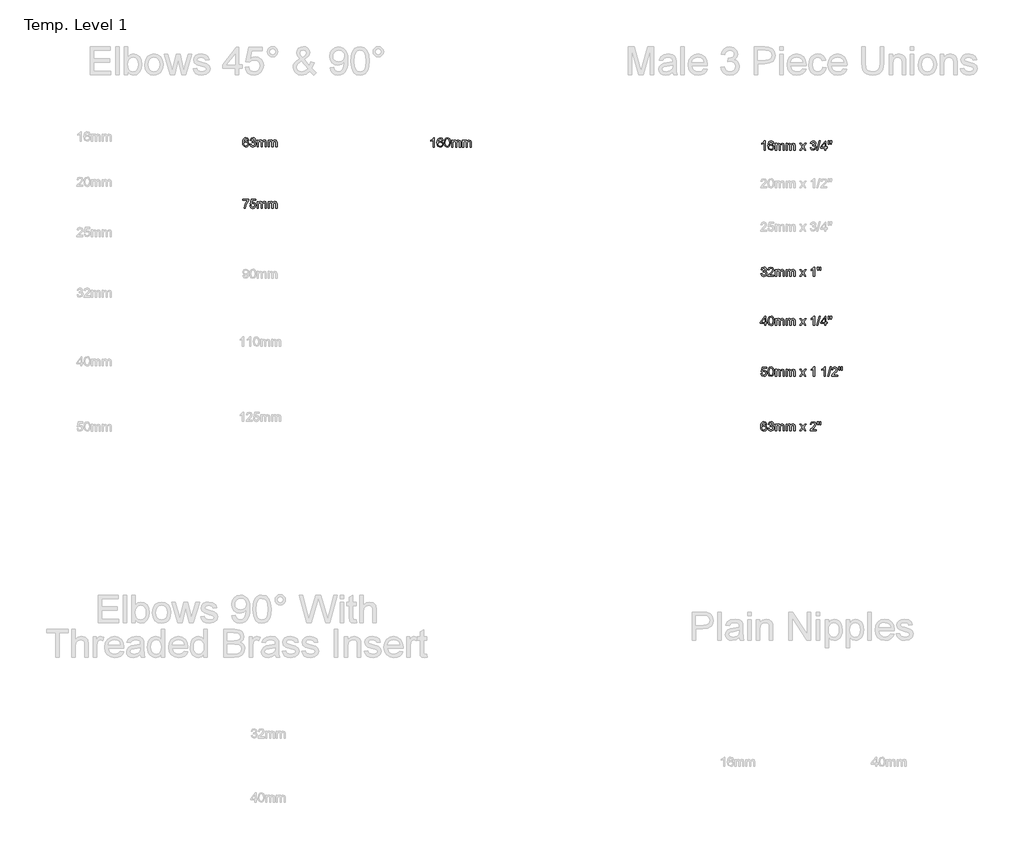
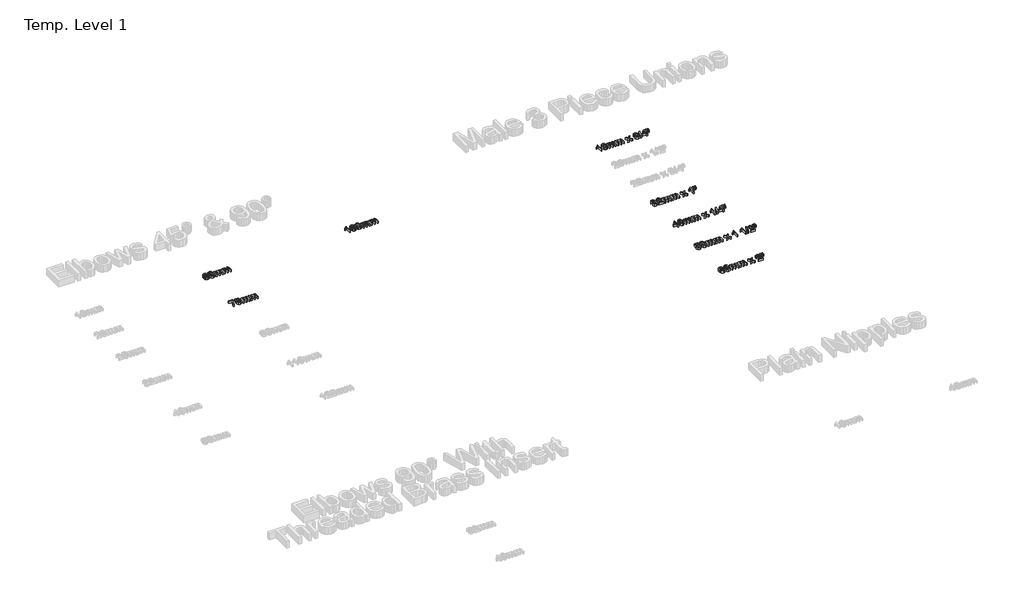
# One storey, part 61 of 62: 8 proxies.
"""IFC4 building model written with IfcOpenShell, lengths in millimetres."""

from ifc_helpers import new_model, si_unit, origin, origin_with_axes, place, context, project, spatial, polyline, outline, extrude, element, save

model = new_model("IFC4")

# Units and contexts
model_context = context("Model", 3, world=origin())
ifc_project = project(units=[si_unit("LENGTHUNIT", "METRE", prefix="MILLI")], contexts=[model_context])

# Site, building, storey
site = spatial("IfcSite", under=ifc_project)
building = spatial("IfcBuilding", under=site)
storey = spatial("IfcBuildingStorey", under=building, Name="Temp. Level 1", Elevation=0.0)

# Proxies
placement = place(None, origin())
element("IfcBuildingElementProxy", 1, Name="50mm Arial", ObjectType="50mm Arial", at=placement, inside=storey, context=model_context, shape_type="SweptSolid", body=[
    extrude(outline(polyline([(24482.7745802, 1583.4553291), (24476.620734, 1582.6860984), (24474.2890033, 1587.8183099), (24468.1231379, 1590.3784061), (24462.5702533, 1588.8880214), (24458.3695321, 1583.2930695), (24456.620734, 1572.3255214), (24462.0474167, 1577.2353772), (24468.7721763, 1578.8399445), (24479.2289071, 1574.4529253), (24483.5438109, 1563.1187907), (24481.5125609, 1554.6272041), (24475.9236186, 1548.6175888), (24467.8587148, 1546.5322522), (24455.3166475, 1552.0610984), (24451.6793278, 1559.3808099), (24450.4668879, 1570.2822522), (24451.8130417, 1582.5388628), (24455.8515033, 1590.9192714), (24461.3653254, 1595.129007), (24468.5077533, 1596.5322522), (24478.2313109, 1593.0586945), (24482.7745802, 1583.4553291)]), holes=[polyline([(24456.620734, 1563.2149445), (24458.0450129, 1557.8844157), (24461.8310706, 1554.0142234), (24467.3779456, 1552.6860984), (24474.6315513, 1555.4385022), (24477.3899648, 1562.9144638), (24474.667609, 1570.0719157), (24467.1255417, 1572.6860984), (24459.6796283, 1570.0719157), (24456.620734, 1563.2149445)])]), origin_with_axes(), (0.0, 0.0, 1.0), 15.0),
    extrude(outline(polyline([(24488.9284263, 1560.3784061), (24495.0822725, 1561.1476368), (24498.4777052, 1554.6692714), (24504.8298686, 1552.6860984), (24512.3058302, 1555.4144638), (24515.0822725, 1562.1692714), (24512.3298686, 1568.5334541), (24505.3346763, 1571.051483), (24501.0197725, 1570.3784061), (24501.7048686, 1576.5322522), (24509.6736186, 1578.2269638), (24512.7745802, 1583.6596561), (24510.526984, 1588.473358), (24504.7337148, 1590.3784061), (24498.8683302, 1588.4553291), (24495.8515033, 1582.6860984), (24489.6976571, 1583.4553291), (24494.7337148, 1593.1067714), (24504.5173686, 1596.5322522), (24511.9392436, 1594.8435503), (24517.1315513, 1590.2281657), (24518.9284263, 1584.020233), (24517.2216956, 1578.3471561), (24512.1736186, 1574.2726368), (24518.8803494, 1570.0659061), (24521.2361186, 1562.0610984), (24516.5245802, 1551.051483), (24504.6135225, 1546.5322522), (24493.8202533, 1550.3904253), (24488.9284263, 1560.3784061)])), origin_with_axes(), (0.0, 0.0, 1.0), 15.0),
    extrude(outline(polyline([(24528.1591956, 1547.301483), (24528.1591956, 1583.4553291), (24534.3130417, 1583.4553291), (24534.3130417, 1577.5058099), (24538.5438109, 1582.379608), (24544.5654456, 1584.2245599), (24550.7313109, 1582.3435503), (24554.120734, 1577.0731176), (24558.9224167, 1582.4366993), (24564.9861186, 1584.2245599), (24573.0329936, 1581.2498003), (24575.8515033, 1572.0851368), (24575.8515033, 1547.301483), (24569.6976571, 1547.301483), (24569.6976571, 1569.4409061), (24569.1267436, 1574.5791272), (24567.0594359, 1577.1091753), (24563.5438109, 1578.0707138), (24557.4921283, 1575.6067714), (24555.0822725, 1567.7101368), (24555.0822725, 1547.301483), (24548.9284263, 1547.301483), (24548.9284263, 1570.1260022), (24547.5041475, 1576.0875407), (24542.8346763, 1578.0707138), (24538.2793879, 1576.7485984), (24535.2505417, 1572.8784061), (24534.3130417, 1565.5346561), (24534.3130417, 1547.301483), (24528.1591956, 1547.301483)])), origin_with_axes(), (0.0, 0.0, 1.0), 15.0),
    extrude(outline(polyline([(24585.0822725, 1547.301483), (24585.0822725, 1583.4553291), (24591.2361186, 1583.4553291), (24591.2361186, 1577.5058099), (24595.4668879, 1582.379608), (24601.4885225, 1584.2245599), (24607.6543879, 1582.3435503), (24611.0438109, 1577.0731176), (24615.8454936, 1582.4366993), (24621.9091956, 1584.2245599), (24629.9560706, 1581.2498003), (24632.7745802, 1572.0851368), (24632.7745802, 1547.301483), (24626.620734, 1547.301483), (24626.620734, 1569.4409061), (24626.0498206, 1574.5791272), (24623.9825129, 1577.1091753), (24620.4668879, 1578.0707138), (24614.4152052, 1575.6067714), (24612.0053494, 1567.7101368), (24612.0053494, 1547.301483), (24605.8515033, 1547.301483), (24605.8515033, 1570.1260022), (24604.4272244, 1576.0875407), (24599.7577533, 1578.0707138), (24595.2024648, 1576.7485984), (24592.1736186, 1572.8784061), (24591.2361186, 1565.5346561), (24591.2361186, 1547.301483), (24585.0822725, 1547.301483)])), origin_with_axes(), (0.0, 0.0, 1.0), 15.0),
])
element("IfcBuildingElementProxy", 2, Name="50mm Arial", ObjectType="50mm Arial", at=placement, inside=storey, context=model_context, shape_type="SweptSolid", body=[
    extrude(outline(polyline([(24451.2361186, 1263.2449204), (24451.2361186, 1269.3987665), (24483.5438109, 1269.3987665), (24483.5438109, 1264.422805), (24474.3791475, 1251.1836223), (24467.3659263, 1234.3146319), (24465.0822725, 1220.9372281), (24458.9284263, 1220.9372281), (24461.3743398, 1234.8194396), (24468.0870802, 1250.5105454), (24477.3899648, 1263.2449204), (24451.2361186, 1263.2449204)])), origin_with_axes(), (0.0, 0.0, 1.0), 15.0),
    extrude(outline(polyline([(24488.9284263, 1234.0141512), (24495.0822725, 1234.7833819), (24498.183234, 1228.4432377), (24504.6135225, 1226.3218435), (24512.3298686, 1229.2725646), (24515.0822725, 1237.1030935), (24512.5041475, 1244.4107858), (24504.7096763, 1247.0910742), (24499.3070321, 1246.0213627), (24495.8515033, 1243.2449204), (24489.6976571, 1244.0141512), (24495.0822725, 1269.3987665), (24518.9284263, 1269.3987665), (24518.9284263, 1263.2449204), (24500.058234, 1263.2449204), (24497.4260225, 1249.6872281), (24506.4284263, 1253.2449204), (24516.9512629, 1248.8338627), (24521.2361186, 1237.4877089), (24517.3779456, 1226.0694396), (24511.8370802, 1221.6433579), (24504.589484, 1220.1679973), (24493.730109, 1223.9600646), (24488.9284263, 1234.0141512)])), origin_with_axes(), (0.0, 0.0, 1.0), 15.0),
    extrude(outline(polyline([(24528.1591956, 1220.9372281), (24528.1591956, 1257.0910742), (24534.3130417, 1257.0910742), (24534.3130417, 1251.141555), (24538.5438109, 1256.0153531), (24544.5654456, 1257.860305), (24550.7313109, 1255.9792954), (24554.120734, 1250.7088627), (24558.9224167, 1256.0724444), (24564.9861186, 1257.860305), (24573.0329936, 1254.8855454), (24575.8515033, 1245.7208819), (24575.8515033, 1220.9372281), (24569.6976571, 1220.9372281), (24569.6976571, 1243.0766512), (24569.1267436, 1248.2148723), (24567.0594359, 1250.7449204), (24563.5438109, 1251.7064589), (24557.4921283, 1249.2425165), (24555.0822725, 1241.3458819), (24555.0822725, 1220.9372281), (24548.9284263, 1220.9372281), (24548.9284263, 1243.7617473), (24547.5041475, 1249.7232858), (24542.8346763, 1251.7064589), (24538.2793879, 1250.3843435), (24535.2505417, 1246.5141512), (24534.3130417, 1239.1704012), (24534.3130417, 1220.9372281), (24528.1591956, 1220.9372281)])), origin_with_axes(), (0.0, 0.0, 1.0), 15.0),
    extrude(outline(polyline([(24585.0822725, 1220.9372281), (24585.0822725, 1257.0910742), (24591.2361186, 1257.0910742), (24591.2361186, 1251.141555), (24595.4668879, 1256.0153531), (24601.4885225, 1257.860305), (24607.6543879, 1255.9792954), (24611.0438109, 1250.7088627), (24615.8454936, 1256.0724444), (24621.9091956, 1257.860305), (24629.9560706, 1254.8855454), (24632.7745802, 1245.7208819), (24632.7745802, 1220.9372281), (24626.620734, 1220.9372281), (24626.620734, 1243.0766512), (24626.0498206, 1248.2148723), (24623.9825129, 1250.7449204), (24620.4668879, 1251.7064589), (24614.4152052, 1249.2425165), (24612.0053494, 1241.3458819), (24612.0053494, 1220.9372281), (24605.8515033, 1220.9372281), (24605.8515033, 1243.7617473), (24604.4272244, 1249.7232858), (24599.7577533, 1251.7064589), (24595.2024648, 1250.3843435), (24592.1736186, 1246.5141512), (24591.2361186, 1239.1704012), (24591.2361186, 1220.9372281), (24585.0822725, 1220.9372281)])), origin_with_axes(), (0.0, 0.0, 1.0), 15.0),
])
element("IfcBuildingElementProxy", 3, Name="50mm Arial", ObjectType="50mm Arial", at=placement, inside=storey, context=model_context, shape_type="SweptSolid", body=[
    extrude(outline(polyline([(25467.9847786, 1546.2891695), (25461.8309325, 1546.2891695), (25461.8309325, 1584.6545541), (25456.0016056, 1580.5019099), (25449.5232402, 1577.3949387), (25449.5232402, 1583.2122464), (25458.5436729, 1588.969458), (25464.0184325, 1595.5199387), (25467.9847786, 1595.5199387), (25467.9847786, 1546.2891695)])), origin_with_axes(), (0.0, 0.0, 1.0), 15.0),
    extrude(outline(polyline([(25514.1386248, 1582.4430157), (25507.9847786, 1581.6737849), (25505.6530479, 1586.8059964), (25499.4871825, 1589.3660926), (25493.9342979, 1587.875708), (25489.7335767, 1582.280756), (25487.9847786, 1571.313208), (25493.4114613, 1576.2230637), (25500.136221, 1577.827631), (25510.5929517, 1573.4406118), (25514.9078556, 1562.1064772), (25512.8766056, 1553.6148907), (25507.2876633, 1547.6052753), (25499.2227594, 1545.5199387), (25486.6806921, 1551.0487849), (25483.0433724, 1558.3684964), (25481.8309325, 1569.2699387), (25483.1770863, 1581.5265493), (25487.2155479, 1589.906958), (25492.72937, 1594.1166935), (25499.8717979, 1595.5199387), (25509.5953556, 1592.046381), (25514.1386248, 1582.4430157)]), holes=[polyline([(25487.9847786, 1562.202631), (25489.4090575, 1556.8721022), (25493.1951152, 1553.0019099), (25498.7419902, 1551.6737849), (25505.995596, 1554.4261887), (25508.7540094, 1561.9021503), (25506.0316536, 1569.0596022), (25498.4895863, 1571.6737849), (25491.0436729, 1569.0596022), (25487.9847786, 1562.202631)])]), origin_with_axes(), (0.0, 0.0, 1.0), 15.0),
    extrude(outline(polyline([(25520.292471, 1570.5079195), (25522.1013652, 1584.672583), (25527.4739613, 1592.8396503), (25536.4463171, 1595.5199387), (25543.6338171, 1593.9334003), (25548.5977594, 1589.360083), (25551.4823748, 1582.0764291), (25552.6001633, 1570.5079195), (25550.8092979, 1556.4033522), (25545.4547306, 1548.218256), (25536.4463171, 1545.5199387), (25525.1963171, 1550.2074387), (25521.5184325, 1558.5337609), (25520.292471, 1570.5079195)]), holes=[polyline([(25526.4463171, 1570.5199387), (25529.3309325, 1555.2374868), (25536.4463171, 1551.6737849), (25543.5617017, 1555.249506), (25546.4463171, 1570.5199387), (25543.6578556, 1585.6281118), (25536.3742017, 1589.3660926), (25529.4270863, 1586.0728234), (25526.4463171, 1570.5199387)])]), origin_with_axes(), (0.0, 0.0, 1.0), 15.0),
    extrude(outline(polyline([(25559.5232402, 1546.2891695), (25559.5232402, 1582.4430157), (25565.6770863, 1582.4430157), (25565.6770863, 1576.4934964), (25569.9078556, 1581.3672945), (25575.9294902, 1583.2122464), (25582.0953556, 1581.3312368), (25585.4847786, 1576.0608041), (25590.2864613, 1581.4243859), (25596.3501633, 1583.2122464), (25604.3970383, 1580.2374868), (25607.2155479, 1571.0728234), (25607.2155479, 1546.2891695), (25601.0617017, 1546.2891695), (25601.0617017, 1568.4285926), (25600.4907883, 1573.5668137), (25598.4234806, 1576.0968618), (25594.9078556, 1577.0584003), (25588.8561729, 1574.594458), (25586.4463171, 1566.6978234), (25586.4463171, 1546.2891695), (25580.292471, 1546.2891695), (25580.292471, 1569.1136887), (25578.8681921, 1575.0752272), (25574.198721, 1577.0584003), (25569.6434325, 1575.7362849), (25566.6145863, 1571.8660926), (25565.6770863, 1564.5223426), (25565.6770863, 1546.2891695), (25559.5232402, 1546.2891695)])), origin_with_axes(), (0.0, 0.0, 1.0), 15.0),
    extrude(outline(polyline([(25616.4463171, 1546.2891695), (25616.4463171, 1582.4430157), (25622.6001633, 1582.4430157), (25622.6001633, 1576.4934964), (25626.8309325, 1581.3672945), (25632.8525671, 1583.2122464), (25639.0184325, 1581.3312368), (25642.4078556, 1576.0608041), (25647.2095383, 1581.4243859), (25653.2732402, 1583.2122464), (25661.3201152, 1580.2374868), (25664.1386248, 1571.0728234), (25664.1386248, 1546.2891695), (25657.9847786, 1546.2891695), (25657.9847786, 1568.4285926), (25657.4138652, 1573.5668137), (25655.3465575, 1576.0968618), (25651.8309325, 1577.0584003), (25645.7792498, 1574.594458), (25643.369394, 1566.6978234), (25643.369394, 1546.2891695), (25637.2155479, 1546.2891695), (25637.2155479, 1569.1136887), (25635.791269, 1575.0752272), (25631.1217979, 1577.0584003), (25626.5665094, 1575.7362849), (25623.5376633, 1571.8660926), (25622.6001633, 1564.5223426), (25622.6001633, 1546.2891695), (25616.4463171, 1546.2891695)])), origin_with_axes(), (0.0, 0.0, 1.0), 15.0),
])
element("IfcBuildingElementProxy", 4, Name="50mm Arial", ObjectType="50mm Arial", at=placement, inside=storey, context=model_context, shape_type="SweptSolid", body=[
    extrude(outline(polyline([(27223.8455092, 1529.801483), (27217.6916631, 1529.801483), (27217.6916631, 1568.1668676), (27211.8623361, 1564.0142234), (27205.3839707, 1560.9072522), (27205.3839707, 1566.7245599), (27214.4044034, 1572.4817714), (27219.8791631, 1579.0322522), (27223.8455092, 1579.0322522), (27223.8455092, 1529.801483)])), origin_with_axes(), (0.0, 0.0, 1.0), 15.0),
    extrude(outline(polyline([(27269.9993554, 1565.9553291), (27263.8455092, 1565.1860984), (27261.5137784, 1570.3183099), (27255.3479131, 1572.8784061), (27249.7950284, 1571.3880214), (27245.5943073, 1565.7930695), (27243.8455092, 1554.8255214), (27249.2721919, 1559.7353772), (27255.9969515, 1561.3399445), (27266.4536823, 1556.9529253), (27270.7685861, 1545.6187907), (27268.7373361, 1537.1272041), (27263.1483938, 1531.1175888), (27255.08349, 1529.0322522), (27242.5414227, 1534.5610984), (27238.904103, 1541.8808099), (27237.6916631, 1552.7822522), (27239.0378169, 1565.0388628), (27243.0762784, 1573.4192714), (27248.5901006, 1577.629007), (27255.7325284, 1579.0322522), (27265.4560861, 1575.5586945), (27269.9993554, 1565.9553291)]), holes=[polyline([(27243.8455092, 1545.7149445), (27245.2697881, 1540.3844157), (27249.0558457, 1536.5142234), (27254.6027207, 1535.1860984), (27261.8563265, 1537.9385022), (27264.61474, 1545.4144638), (27261.8923842, 1552.5719157), (27254.3503169, 1555.1860984), (27246.9044034, 1552.5719157), (27243.8455092, 1545.7149445)])]), origin_with_axes(), (0.0, 0.0, 1.0), 15.0),
    extrude(outline(polyline([(27277.6916631, 1529.801483), (27277.6916631, 1565.9553291), (27283.8455092, 1565.9553291), (27283.8455092, 1560.0058099), (27288.0762784, 1564.879608), (27294.0979131, 1566.7245599), (27300.2637784, 1564.8435503), (27303.6532015, 1559.5731176), (27308.4548842, 1564.9366993), (27314.5185861, 1566.7245599), (27322.5654611, 1563.7498003), (27325.3839707, 1554.5851368), (27325.3839707, 1529.801483), (27319.2301246, 1529.801483), (27319.2301246, 1551.9409061), (27318.6592111, 1557.0791272), (27316.5919034, 1559.6091753), (27313.0762784, 1560.5707138), (27307.0245957, 1558.1067714), (27304.61474, 1550.2101368), (27304.61474, 1529.801483), (27298.4608938, 1529.801483), (27298.4608938, 1552.6260022), (27297.036615, 1558.5875407), (27292.3671438, 1560.5707138), (27287.8118554, 1559.2485984), (27284.7830092, 1555.3784061), (27283.8455092, 1548.0346561), (27283.8455092, 1529.801483), (27277.6916631, 1529.801483)])), origin_with_axes(), (0.0, 0.0, 1.0), 15.0),
    extrude(outline(polyline([(27334.61474, 1529.801483), (27334.61474, 1565.9553291), (27340.7685861, 1565.9553291), (27340.7685861, 1560.0058099), (27344.9993554, 1564.879608), (27351.02099, 1566.7245599), (27357.1868554, 1564.8435503), (27360.5762784, 1559.5731176), (27365.3779611, 1564.9366993), (27371.4416631, 1566.7245599), (27379.4885381, 1563.7498003), (27382.3070477, 1554.5851368), (27382.3070477, 1529.801483), (27376.1532015, 1529.801483), (27376.1532015, 1551.9409061), (27375.5822881, 1557.0791272), (27373.5149804, 1559.6091753), (27369.9993554, 1560.5707138), (27363.9476727, 1558.1067714), (27361.5378169, 1550.2101368), (27361.5378169, 1529.801483), (27355.3839707, 1529.801483), (27355.3839707, 1552.6260022), (27353.9596919, 1558.5875407), (27349.2902207, 1560.5707138), (27344.7349323, 1559.2485984), (27341.7060861, 1555.3784061), (27340.7685861, 1548.0346561), (27340.7685861, 1529.801483), (27334.61474, 1529.801483)])), origin_with_axes(), (0.0, 0.0, 1.0), 15.0),
    extrude(outline(polyline([(27406.9224323, 1529.801483), (27420.0714707, 1547.9745599), (27407.6916631, 1565.9553291), (27415.0955092, 1565.9553291), (27421.0690669, 1557.301483), (27423.8575284, 1553.2149445), (27426.2733938, 1556.5562907), (27433.0762784, 1565.9553291), (27440.4801246, 1565.9553291), (27427.4753169, 1547.9745599), (27439.9993554, 1529.801483), (27432.5955092, 1529.801483), (27425.0594515, 1540.7269638), (27423.67724, 1542.7221561), (27414.3262784, 1529.801483), (27406.9224323, 1529.801483)])), origin_with_axes(), (0.0, 0.0, 1.0), 15.0),
    extrude(outline(polyline([(27463.0762784, 1542.8784061), (27469.2301246, 1543.6476368), (27472.6255573, 1537.1692714), (27478.9777207, 1535.1860984), (27486.4536823, 1537.9144638), (27489.2301246, 1544.6692714), (27486.4777207, 1551.0334541), (27479.4825284, 1553.551483), (27475.1676246, 1552.8784061), (27475.8527207, 1559.0322522), (27483.8214707, 1560.7269638), (27486.9224323, 1566.1596561), (27484.6748361, 1570.973358), (27478.8815669, 1572.8784061), (27473.0161823, 1570.9553291), (27469.9993554, 1565.1860984), (27463.8455092, 1565.9553291), (27468.8815669, 1575.6067714), (27478.6652207, 1579.0322522), (27486.0870957, 1577.3435503), (27491.2794034, 1572.7281657), (27493.0762784, 1566.520233), (27491.3695477, 1560.8471561), (27486.3214707, 1556.7726368), (27493.0282015, 1552.5659061), (27495.3839707, 1544.5610984), (27490.6724323, 1533.551483), (27478.7613746, 1529.0322522), (27467.9681054, 1532.8904253), (27463.0762784, 1542.8784061)])), origin_with_axes(), (0.0, 0.0, 1.0), 15.0),
    extrude(outline(polyline([(27497.6916631, 1529.801483), (27511.5378169, 1579.0322522), (27517.0907015, 1579.0322522), (27503.2445477, 1529.801483), (27497.6916631, 1529.801483)])), origin_with_axes(), (0.0, 0.0, 1.0), 15.0),
    extrude(outline(polyline([(27539.9993554, 1529.801483), (27539.9993554, 1541.3399445), (27517.6916631, 1541.3399445), (27517.6916631, 1547.4937907), (27541.5378169, 1578.2630214), (27546.1532015, 1578.2630214), (27546.1532015, 1547.4937907), (27552.3070477, 1547.4937907), (27552.3070477, 1541.3399445), (27546.1532015, 1541.3399445), (27546.1532015, 1529.801483), (27539.9993554, 1529.801483)]), holes=[polyline([(27539.9993554, 1547.4937907), (27539.9993554, 1566.5082138), (27525.2637784, 1547.4937907), (27539.9993554, 1547.4937907)])]), origin_with_axes(), (0.0, 0.0, 1.0), 15.0),
    extrude(outline(polyline([(27571.4657015, 1561.3399445), (27569.9993554, 1570.8471561), (27569.9993554, 1579.0322522), (27576.1532015, 1579.0322522), (27576.1532015, 1570.8471561), (27574.7108938, 1561.3399445), (27571.4657015, 1561.3399445)])), origin_with_axes(), (0.0, 0.0, 1.0), 15.0),
    extrude(outline(polyline([(27559.1940669, 1561.3399445), (27557.6916631, 1570.8471561), (27557.6916631, 1579.0322522), (27563.8455092, 1579.0322522), (27563.8455092, 1570.8471561), (27562.4993554, 1561.3399445), (27559.1940669, 1561.3399445)])), origin_with_axes(), (0.0, 0.0, 1.0), 15.0),
])
element("IfcBuildingElementProxy", 5, Name="50mm Arial", ObjectType="50mm Arial", at=placement, inside=storey, context=model_context, shape_type="SweptSolid", body=[
    extrude(outline(polyline([(27200.7685861, 872.8784061), (27206.9224323, 873.6476368), (27210.317865, 867.1692714), (27216.6700284, 865.1860984), (27224.14599, 867.9144638), (27226.9224323, 874.6692714), (27224.1700284, 881.0334541), (27217.1748361, 883.551483), (27212.8599323, 882.8784061), (27213.5450284, 889.0322522), (27221.5137784, 890.7269638), (27224.61474, 896.1596561), (27222.3671438, 900.973358), (27216.5738746, 902.8784061), (27210.70849, 900.9553291), (27207.6916631, 895.1860984), (27201.5378169, 895.9553291), (27206.5738746, 905.6067714), (27216.3575284, 909.0322522), (27223.7794034, 907.3435503), (27228.9717111, 902.7281657), (27230.7685861, 896.520233), (27229.0618554, 890.8471561), (27224.0137784, 886.7726368), (27230.7205092, 882.5659061), (27233.0762784, 874.5610984), (27228.36474, 863.551483), (27216.4536823, 859.0322522), (27205.6604131, 862.8904253), (27200.7685861, 872.8784061)])), origin_with_axes(), (0.0, 0.0, 1.0), 15.0),
    extrude(outline(polyline([(27269.9993554, 865.9553291), (27269.9993554, 859.801483), (27237.6916631, 859.801483), (27238.3527207, 864.0442714), (27242.0907015, 870.5767234), (27249.7950284, 877.7101368), (27260.4200284, 887.9625407), (27263.0762784, 894.9336945), (27260.5702688, 900.5767234), (27254.0257977, 902.8784061), (27247.2048842, 900.6308099), (27244.61474, 894.4168676), (27238.4608938, 895.1860984), (27243.1784419, 905.4865791), (27254.1580092, 909.0322522), (27265.1736342, 905.0899445), (27269.2301246, 895.3062907), (27268.1363746, 889.4709541), (27264.5005573, 883.4373003), (27255.6844515, 875.0058099), (27248.6051246, 869.0863388), (27245.8286823, 865.9553291), (27269.9993554, 865.9553291)])), origin_with_axes(), (0.0, 0.0, 1.0), 15.0),
    extrude(outline(polyline([(27277.6916631, 859.801483), (27277.6916631, 895.9553291), (27283.8455092, 895.9553291), (27283.8455092, 890.0058099), (27288.0762784, 894.879608), (27294.0979131, 896.7245599), (27300.2637784, 894.8435503), (27303.6532015, 889.5731176), (27308.4548842, 894.9366993), (27314.5185861, 896.7245599), (27322.5654611, 893.7498003), (27325.3839707, 884.5851368), (27325.3839707, 859.801483), (27319.2301246, 859.801483), (27319.2301246, 881.9409061), (27318.6592111, 887.0791272), (27316.5919034, 889.6091753), (27313.0762784, 890.5707138), (27307.0245957, 888.1067714), (27304.61474, 880.2101368), (27304.61474, 859.801483), (27298.4608938, 859.801483), (27298.4608938, 882.6260022), (27297.036615, 888.5875407), (27292.3671438, 890.5707138), (27287.8118554, 889.2485984), (27284.7830092, 885.3784061), (27283.8455092, 878.0346561), (27283.8455092, 859.801483), (27277.6916631, 859.801483)])), origin_with_axes(), (0.0, 0.0, 1.0), 15.0),
    extrude(outline(polyline([(27334.61474, 859.801483), (27334.61474, 895.9553291), (27340.7685861, 895.9553291), (27340.7685861, 890.0058099), (27344.9993554, 894.879608), (27351.02099, 896.7245599), (27357.1868554, 894.8435503), (27360.5762784, 889.5731176), (27365.3779611, 894.9366993), (27371.4416631, 896.7245599), (27379.4885381, 893.7498003), (27382.3070477, 884.5851368), (27382.3070477, 859.801483), (27376.1532015, 859.801483), (27376.1532015, 881.9409061), (27375.5822881, 887.0791272), (27373.5149804, 889.6091753), (27369.9993554, 890.5707138), (27363.9476727, 888.1067714), (27361.5378169, 880.2101368), (27361.5378169, 859.801483), (27355.3839707, 859.801483), (27355.3839707, 882.6260022), (27353.9596919, 888.5875407), (27349.2902207, 890.5707138), (27344.7349323, 889.2485984), (27341.7060861, 885.3784061), (27340.7685861, 878.0346561), (27340.7685861, 859.801483), (27334.61474, 859.801483)])), origin_with_axes(), (0.0, 0.0, 1.0), 15.0),
    extrude(outline(polyline([(27406.9224323, 859.801483), (27420.0714707, 877.9745599), (27407.6916631, 895.9553291), (27415.0955092, 895.9553291), (27421.0690669, 887.301483), (27423.8575284, 883.2149445), (27426.2733938, 886.5562907), (27433.0762784, 895.9553291), (27440.4801246, 895.9553291), (27427.4753169, 877.9745599), (27439.9993554, 859.801483), (27432.5955092, 859.801483), (27425.0594515, 870.7269638), (27423.67724, 872.7221561), (27414.3262784, 859.801483), (27406.9224323, 859.801483)])), origin_with_axes(), (0.0, 0.0, 1.0), 15.0),
    extrude(outline(polyline([(27486.1532015, 859.801483), (27479.9993554, 859.801483), (27479.9993554, 898.1668676), (27474.1700284, 894.0142234), (27467.6916631, 890.9072522), (27467.6916631, 896.7245599), (27476.7120957, 902.4817714), (27482.1868554, 909.0322522), (27486.1532015, 909.0322522), (27486.1532015, 859.801483)])), origin_with_axes(), (0.0, 0.0, 1.0), 15.0),
    extrude(outline(polyline([(27502.27099, 891.3399445), (27500.7685861, 900.8471561), (27500.7685861, 909.0322522), (27506.9224323, 909.0322522), (27506.9224323, 900.8471561), (27505.5762784, 891.3399445), (27502.27099, 891.3399445)])), origin_with_axes(), (0.0, 0.0, 1.0), 15.0),
    extrude(outline(polyline([(27514.5426246, 891.3399445), (27513.0762784, 900.8471561), (27513.0762784, 909.0322522), (27519.2301246, 909.0322522), (27519.2301246, 900.8471561), (27517.7878169, 891.3399445), (27514.5426246, 891.3399445)])), origin_with_axes(), (0.0, 0.0, 1.0), 15.0),
])
element("IfcBuildingElementProxy", 6, Name="50mm Arial", ObjectType="50mm Arial", at=placement, inside=storey, context=model_context, shape_type="SweptSolid", body=[
    extrude(outline(polyline([(27220.7685861, 599.801483), (27220.7685861, 611.3399445), (27198.4608938, 611.3399445), (27198.4608938, 617.4937907), (27222.3070477, 648.2630214), (27226.9224323, 648.2630214), (27226.9224323, 617.4937907), (27233.0762784, 617.4937907), (27233.0762784, 611.3399445), (27226.9224323, 611.3399445), (27226.9224323, 599.801483), (27220.7685861, 599.801483)]), holes=[polyline([(27220.7685861, 617.4937907), (27220.7685861, 636.5082138), (27206.0330092, 617.4937907), (27220.7685861, 617.4937907)])]), origin_with_axes(), (0.0, 0.0, 1.0), 15.0),
    extrude(outline(polyline([(27238.4608938, 624.020233), (27240.2697881, 638.1848964), (27245.6423842, 646.3519638), (27254.61474, 649.0322522), (27261.80224, 647.4457138), (27266.7661823, 642.8723964), (27269.6507977, 635.5887426), (27270.7685861, 624.020233), (27268.9777207, 609.9156657), (27263.6231534, 601.7305695), (27254.61474, 599.0322522), (27243.36474, 603.7197522), (27239.6868554, 612.0460743), (27238.4608938, 624.020233)]), holes=[polyline([(27244.61474, 624.0322522), (27247.4993554, 608.7498003), (27254.61474, 605.1860984), (27261.7301246, 608.7618195), (27264.61474, 624.0322522), (27261.8262784, 639.1404253), (27254.5426246, 642.8784061), (27247.5955092, 639.5851368), (27244.61474, 624.0322522)])]), origin_with_axes(), (0.0, 0.0, 1.0), 15.0),
    extrude(outline(polyline([(27277.6916631, 599.801483), (27277.6916631, 635.9553291), (27283.8455092, 635.9553291), (27283.8455092, 630.0058099), (27288.0762784, 634.879608), (27294.0979131, 636.7245599), (27300.2637784, 634.8435503), (27303.6532015, 629.5731176), (27308.4548842, 634.9366993), (27314.5185861, 636.7245599), (27322.5654611, 633.7498003), (27325.3839707, 624.5851368), (27325.3839707, 599.801483), (27319.2301246, 599.801483), (27319.2301246, 621.9409061), (27318.6592111, 627.0791272), (27316.5919034, 629.6091753), (27313.0762784, 630.5707138), (27307.0245957, 628.1067714), (27304.61474, 620.2101368), (27304.61474, 599.801483), (27298.4608938, 599.801483), (27298.4608938, 622.6260022), (27297.036615, 628.5875407), (27292.3671438, 630.5707138), (27287.8118554, 629.2485984), (27284.7830092, 625.3784061), (27283.8455092, 618.0346561), (27283.8455092, 599.801483), (27277.6916631, 599.801483)])), origin_with_axes(), (0.0, 0.0, 1.0), 15.0),
    extrude(outline(polyline([(27334.61474, 599.801483), (27334.61474, 635.9553291), (27340.7685861, 635.9553291), (27340.7685861, 630.0058099), (27344.9993554, 634.879608), (27351.02099, 636.7245599), (27357.1868554, 634.8435503), (27360.5762784, 629.5731176), (27365.3779611, 634.9366993), (27371.4416631, 636.7245599), (27379.4885381, 633.7498003), (27382.3070477, 624.5851368), (27382.3070477, 599.801483), (27376.1532015, 599.801483), (27376.1532015, 621.9409061), (27375.5822881, 627.0791272), (27373.5149804, 629.6091753), (27369.9993554, 630.5707138), (27363.9476727, 628.1067714), (27361.5378169, 620.2101368), (27361.5378169, 599.801483), (27355.3839707, 599.801483), (27355.3839707, 622.6260022), (27353.9596919, 628.5875407), (27349.2902207, 630.5707138), (27344.7349323, 629.2485984), (27341.7060861, 625.3784061), (27340.7685861, 618.0346561), (27340.7685861, 599.801483), (27334.61474, 599.801483)])), origin_with_axes(), (0.0, 0.0, 1.0), 15.0),
    extrude(outline(polyline([(27406.9224323, 599.801483), (27420.0714707, 617.9745599), (27407.6916631, 635.9553291), (27415.0955092, 635.9553291), (27421.0690669, 627.301483), (27423.8575284, 623.2149445), (27426.2733938, 626.5562907), (27433.0762784, 635.9553291), (27440.4801246, 635.9553291), (27427.4753169, 617.9745599), (27439.9993554, 599.801483), (27432.5955092, 599.801483), (27425.0594515, 610.7269638), (27423.67724, 612.7221561), (27414.3262784, 599.801483), (27406.9224323, 599.801483)])), origin_with_axes(), (0.0, 0.0, 1.0), 15.0),
    extrude(outline(polyline([(27486.1532015, 599.801483), (27479.9993554, 599.801483), (27479.9993554, 638.1668676), (27474.1700284, 634.0142234), (27467.6916631, 630.9072522), (27467.6916631, 636.7245599), (27476.7120957, 642.4817714), (27482.1868554, 649.0322522), (27486.1532015, 649.0322522), (27486.1532015, 599.801483)])), origin_with_axes(), (0.0, 0.0, 1.0), 15.0),
    extrude(outline(polyline([(27497.6916631, 599.801483), (27511.5378169, 649.0322522), (27517.0907015, 649.0322522), (27503.2445477, 599.801483), (27497.6916631, 599.801483)])), origin_with_axes(), (0.0, 0.0, 1.0), 15.0),
    extrude(outline(polyline([(27539.9993554, 599.801483), (27539.9993554, 611.3399445), (27517.6916631, 611.3399445), (27517.6916631, 617.4937907), (27541.5378169, 648.2630214), (27546.1532015, 648.2630214), (27546.1532015, 617.4937907), (27552.3070477, 617.4937907), (27552.3070477, 611.3399445), (27546.1532015, 611.3399445), (27546.1532015, 599.801483), (27539.9993554, 599.801483)]), holes=[polyline([(27539.9993554, 617.4937907), (27539.9993554, 636.5082138), (27525.2637784, 617.4937907), (27539.9993554, 617.4937907)])]), origin_with_axes(), (0.0, 0.0, 1.0), 15.0),
    extrude(outline(polyline([(27571.4657015, 631.3399445), (27569.9993554, 640.8471561), (27569.9993554, 649.0322522), (27576.1532015, 649.0322522), (27576.1532015, 640.8471561), (27574.7108938, 631.3399445), (27571.4657015, 631.3399445)])), origin_with_axes(), (0.0, 0.0, 1.0), 15.0),
    extrude(outline(polyline([(27559.1940669, 631.3399445), (27557.6916631, 640.8471561), (27557.6916631, 649.0322522), (27563.8455092, 649.0322522), (27563.8455092, 640.8471561), (27562.4993554, 631.3399445), (27559.1940669, 631.3399445)])), origin_with_axes(), (0.0, 0.0, 1.0), 15.0),
])
element("IfcBuildingElementProxy", 7, Name="50mm Arial", ObjectType="50mm Arial", at=placement, inside=storey, context=model_context, shape_type="SweptSolid", body=[
    extrude(outline(polyline([(27200.7685861, 342.8784061), (27206.9224323, 343.6476368), (27210.0233938, 337.3074926), (27216.4536823, 335.1860984), (27224.1700284, 338.1368195), (27226.9224323, 345.9673484), (27224.3443073, 353.2750407), (27216.5498361, 355.9553291), (27211.1471919, 354.8856176), (27207.6916631, 352.1091753), (27201.5378169, 352.8784061), (27206.9224323, 378.2630214), (27230.7685861, 378.2630214), (27230.7685861, 372.1091753), (27211.8983938, 372.1091753), (27209.2661823, 358.551483), (27218.2685861, 362.1091753), (27228.7914227, 357.6981176), (27233.0762784, 346.3519638), (27229.2181054, 334.9336945), (27223.67724, 330.5076128), (27216.4296438, 329.0322522), (27205.5702688, 332.8243195), (27200.7685861, 342.8784061)])), origin_with_axes(), (0.0, 0.0, 1.0), 15.0),
    extrude(outline(polyline([(27238.4608938, 354.020233), (27240.2697881, 368.1848964), (27245.6423842, 376.3519638), (27254.61474, 379.0322522), (27261.80224, 377.4457138), (27266.7661823, 372.8723964), (27269.6507977, 365.5887426), (27270.7685861, 354.020233), (27268.9777207, 339.9156657), (27263.6231534, 331.7305695), (27254.61474, 329.0322522), (27243.36474, 333.7197522), (27239.6868554, 342.0460743), (27238.4608938, 354.020233)]), holes=[polyline([(27244.61474, 354.0322522), (27247.4993554, 338.7498003), (27254.61474, 335.1860984), (27261.7301246, 338.7618195), (27264.61474, 354.0322522), (27261.8262784, 369.1404253), (27254.5426246, 372.8784061), (27247.5955092, 369.5851368), (27244.61474, 354.0322522)])]), origin_with_axes(), (0.0, 0.0, 1.0), 15.0),
    extrude(outline(polyline([(27277.6916631, 329.801483), (27277.6916631, 365.9553291), (27283.8455092, 365.9553291), (27283.8455092, 360.0058099), (27288.0762784, 364.879608), (27294.0979131, 366.7245599), (27300.2637784, 364.8435503), (27303.6532015, 359.5731176), (27308.4548842, 364.9366993), (27314.5185861, 366.7245599), (27322.5654611, 363.7498003), (27325.3839707, 354.5851368), (27325.3839707, 329.801483), (27319.2301246, 329.801483), (27319.2301246, 351.9409061), (27318.6592111, 357.0791272), (27316.5919034, 359.6091753), (27313.0762784, 360.5707138), (27307.0245957, 358.1067714), (27304.61474, 350.2101368), (27304.61474, 329.801483), (27298.4608938, 329.801483), (27298.4608938, 352.6260022), (27297.036615, 358.5875407), (27292.3671438, 360.5707138), (27287.8118554, 359.2485984), (27284.7830092, 355.3784061), (27283.8455092, 348.0346561), (27283.8455092, 329.801483), (27277.6916631, 329.801483)])), origin_with_axes(), (0.0, 0.0, 1.0), 15.0),
    extrude(outline(polyline([(27334.61474, 329.801483), (27334.61474, 365.9553291), (27340.7685861, 365.9553291), (27340.7685861, 360.0058099), (27344.9993554, 364.879608), (27351.02099, 366.7245599), (27357.1868554, 364.8435503), (27360.5762784, 359.5731176), (27365.3779611, 364.9366993), (27371.4416631, 366.7245599), (27379.4885381, 363.7498003), (27382.3070477, 354.5851368), (27382.3070477, 329.801483), (27376.1532015, 329.801483), (27376.1532015, 351.9409061), (27375.5822881, 357.0791272), (27373.5149804, 359.6091753), (27369.9993554, 360.5707138), (27363.9476727, 358.1067714), (27361.5378169, 350.2101368), (27361.5378169, 329.801483), (27355.3839707, 329.801483), (27355.3839707, 352.6260022), (27353.9596919, 358.5875407), (27349.2902207, 360.5707138), (27344.7349323, 359.2485984), (27341.7060861, 355.3784061), (27340.7685861, 348.0346561), (27340.7685861, 329.801483), (27334.61474, 329.801483)])), origin_with_axes(), (0.0, 0.0, 1.0), 15.0),
    extrude(outline(polyline([(27406.9224323, 329.801483), (27420.0714707, 347.9745599), (27407.6916631, 365.9553291), (27415.0955092, 365.9553291), (27421.0690669, 357.301483), (27423.8575284, 353.2149445), (27426.2733938, 356.5562907), (27433.0762784, 365.9553291), (27440.4801246, 365.9553291), (27427.4753169, 347.9745599), (27439.9993554, 329.801483), (27432.5955092, 329.801483), (27425.0594515, 340.7269638), (27423.67724, 342.7221561), (27414.3262784, 329.801483), (27406.9224323, 329.801483)])), origin_with_axes(), (0.0, 0.0, 1.0), 15.0),
    extrude(outline(polyline([(27486.1532015, 329.801483), (27479.9993554, 329.801483), (27479.9993554, 368.1668676), (27474.1700284, 364.0142234), (27467.6916631, 360.9072522), (27467.6916631, 366.7245599), (27476.7120957, 372.4817714), (27482.1868554, 379.0322522), (27486.1532015, 379.0322522), (27486.1532015, 329.801483)])), origin_with_axes(), (0.0, 0.0, 1.0), 15.0),
    extrude(outline(polyline([(27543.0762784, 329.801483), (27536.9224323, 329.801483), (27536.9224323, 368.1668676), (27531.0931054, 364.0142234), (27524.61474, 360.9072522), (27524.61474, 366.7245599), (27533.6351727, 372.4817714), (27539.1099323, 379.0322522), (27543.0762784, 379.0322522), (27543.0762784, 329.801483)])), origin_with_axes(), (0.0, 0.0, 1.0), 15.0),
    extrude(outline(polyline([(27554.61474, 329.801483), (27568.4608938, 379.0322522), (27574.0137784, 379.0322522), (27560.1676246, 329.801483), (27554.61474, 329.801483)])), origin_with_axes(), (0.0, 0.0, 1.0), 15.0),
    extrude(outline(polyline([(27608.4608938, 335.9553291), (27608.4608938, 329.801483), (27576.1532015, 329.801483), (27576.8142592, 334.0442714), (27580.55224, 340.5767234), (27588.2565669, 347.7101368), (27598.8815669, 357.9625407), (27601.5378169, 364.9336945), (27599.0318073, 370.5767234), (27592.4873361, 372.8784061), (27585.6664227, 370.6308099), (27583.0762784, 364.4168676), (27576.9224323, 365.1860984), (27581.6399804, 375.4865791), (27592.6195477, 379.0322522), (27603.6351727, 375.0899445), (27607.6916631, 365.3062907), (27606.5979131, 359.4709541), (27602.9620957, 353.4373003), (27594.14599, 345.0058099), (27587.0666631, 339.0863388), (27584.2902207, 335.9553291), (27608.4608938, 335.9553291)])), origin_with_axes(), (0.0, 0.0, 1.0), 15.0),
    extrude(outline(polyline([(27628.3887784, 361.3399445), (27626.9224323, 370.8471561), (27626.9224323, 379.0322522), (27633.0762784, 379.0322522), (27633.0762784, 370.8471561), (27631.6339707, 361.3399445), (27628.3887784, 361.3399445)])), origin_with_axes(), (0.0, 0.0, 1.0), 15.0),
    extrude(outline(polyline([(27616.1171438, 361.3399445), (27614.61474, 370.8471561), (27614.61474, 379.0322522), (27620.7685861, 379.0322522), (27620.7685861, 370.8471561), (27619.4224323, 361.3399445), (27616.1171438, 361.3399445)])), origin_with_axes(), (0.0, 0.0, 1.0), 15.0),
])
element("IfcBuildingElementProxy", 8, Name="50mm Arial", ObjectType="50mm Arial", at=placement, inside=storey, context=model_context, shape_type="SweptSolid", body=[
    extrude(outline(polyline([(27232.3070477, 75.9553291), (27226.1532015, 75.1860984), (27223.8214707, 80.3183099), (27217.6556054, 82.8784061), (27212.1027207, 81.3880214), (27207.9019996, 75.7930695), (27206.1532015, 64.8255214), (27211.5798842, 69.7353772), (27218.3046438, 71.3399445), (27228.7613746, 66.9529253), (27233.0762784, 55.6187907), (27231.0450284, 47.1272041), (27225.4560861, 41.1175888), (27217.3911823, 39.0322522), (27204.849115, 44.5610984), (27201.2117953, 51.8808099), (27199.9993554, 62.7822522), (27201.3455092, 75.0388628), (27205.3839707, 83.4192714), (27210.8977929, 87.629007), (27218.0402207, 89.0322522), (27227.7637784, 85.5586945), (27232.3070477, 75.9553291)]), holes=[polyline([(27206.1532015, 55.7149445), (27207.5774804, 50.3844157), (27211.3635381, 46.5142234), (27216.9104131, 45.1860984), (27224.1640188, 47.9385022), (27226.9224323, 55.4144638), (27224.2000765, 62.5719157), (27216.6580092, 65.1860984), (27209.2120957, 62.5719157), (27206.1532015, 55.7149445)])]), origin_with_axes(), (0.0, 0.0, 1.0), 15.0),
    extrude(outline(polyline([(27238.4608938, 52.8784061), (27244.61474, 53.6476368), (27248.0101727, 47.1692714), (27254.3623361, 45.1860984), (27261.8382977, 47.9144638), (27264.61474, 54.6692714), (27261.8623361, 61.0334541), (27254.8671438, 63.551483), (27250.55224, 62.8784061), (27251.2373361, 69.0322522), (27259.2060861, 70.7269638), (27262.3070477, 76.1596561), (27260.0594515, 80.973358), (27254.2661823, 82.8784061), (27248.4007977, 80.9553291), (27245.3839707, 75.1860984), (27239.2301246, 75.9553291), (27244.2661823, 85.6067714), (27254.0498361, 89.0322522), (27261.4717111, 87.3435503), (27266.6640188, 82.7281657), (27268.4608938, 76.520233), (27266.7541631, 70.8471561), (27261.7060861, 66.7726368), (27268.4128169, 62.5659061), (27270.7685861, 54.5610984), (27266.0570477, 43.551483), (27254.14599, 39.0322522), (27243.3527207, 42.8904253), (27238.4608938, 52.8784061)])), origin_with_axes(), (0.0, 0.0, 1.0), 15.0),
    extrude(outline(polyline([(27277.6916631, 39.801483), (27277.6916631, 75.9553291), (27283.8455092, 75.9553291), (27283.8455092, 70.0058099), (27288.0762784, 74.879608), (27294.0979131, 76.7245599), (27300.2637784, 74.8435503), (27303.6532015, 69.5731176), (27308.4548842, 74.9366993), (27314.5185861, 76.7245599), (27322.5654611, 73.7498003), (27325.3839707, 64.5851368), (27325.3839707, 39.801483), (27319.2301246, 39.801483), (27319.2301246, 61.9409061), (27318.6592111, 67.0791272), (27316.5919034, 69.6091753), (27313.0762784, 70.5707138), (27307.0245957, 68.1067714), (27304.61474, 60.2101368), (27304.61474, 39.801483), (27298.4608938, 39.801483), (27298.4608938, 62.6260022), (27297.036615, 68.5875407), (27292.3671438, 70.5707138), (27287.8118554, 69.2485984), (27284.7830092, 65.3784061), (27283.8455092, 58.0346561), (27283.8455092, 39.801483), (27277.6916631, 39.801483)])), origin_with_axes(), (0.0, 0.0, 1.0), 15.0),
    extrude(outline(polyline([(27334.61474, 39.801483), (27334.61474, 75.9553291), (27340.7685861, 75.9553291), (27340.7685861, 70.0058099), (27344.9993554, 74.879608), (27351.02099, 76.7245599), (27357.1868554, 74.8435503), (27360.5762784, 69.5731176), (27365.3779611, 74.9366993), (27371.4416631, 76.7245599), (27379.4885381, 73.7498003), (27382.3070477, 64.5851368), (27382.3070477, 39.801483), (27376.1532015, 39.801483), (27376.1532015, 61.9409061), (27375.5822881, 67.0791272), (27373.5149804, 69.6091753), (27369.9993554, 70.5707138), (27363.9476727, 68.1067714), (27361.5378169, 60.2101368), (27361.5378169, 39.801483), (27355.3839707, 39.801483), (27355.3839707, 62.6260022), (27353.9596919, 68.5875407), (27349.2902207, 70.5707138), (27344.7349323, 69.2485984), (27341.7060861, 65.3784061), (27340.7685861, 58.0346561), (27340.7685861, 39.801483), (27334.61474, 39.801483)])), origin_with_axes(), (0.0, 0.0, 1.0), 15.0),
    extrude(outline(polyline([(27406.9224323, 39.801483), (27420.0714707, 57.9745599), (27407.6916631, 75.9553291), (27415.0955092, 75.9553291), (27421.0690669, 67.301483), (27423.8575284, 63.2149445), (27426.2733938, 66.5562907), (27433.0762784, 75.9553291), (27440.4801246, 75.9553291), (27427.4753169, 57.9745599), (27439.9993554, 39.801483), (27432.5955092, 39.801483), (27425.0594515, 50.7269638), (27423.67724, 52.7221561), (27414.3262784, 39.801483), (27406.9224323, 39.801483)])), origin_with_axes(), (0.0, 0.0, 1.0), 15.0),
    extrude(outline(polyline([(27494.61474, 45.9553291), (27494.61474, 39.801483), (27462.3070477, 39.801483), (27462.9681054, 44.0442714), (27466.7060861, 50.5767234), (27474.4104131, 57.7101368), (27485.0354131, 67.9625407), (27487.6916631, 74.9336945), (27485.1856534, 80.5767234), (27478.6411823, 82.8784061), (27471.8202688, 80.6308099), (27469.2301246, 74.4168676), (27463.0762784, 75.1860984), (27467.7938265, 85.4865791), (27478.7733938, 89.0322522), (27489.7890188, 85.0899445), (27493.8455092, 75.3062907), (27492.7517592, 69.4709541), (27489.1159419, 63.4373003), (27480.2998361, 55.0058099), (27473.2205092, 49.0863388), (27470.4440669, 45.9553291), (27494.61474, 45.9553291)])), origin_with_axes(), (0.0, 0.0, 1.0), 15.0),
    extrude(outline(polyline([(27502.27099, 71.3399445), (27500.7685861, 80.8471561), (27500.7685861, 89.0322522), (27506.9224323, 89.0322522), (27506.9224323, 80.8471561), (27505.5762784, 71.3399445), (27502.27099, 71.3399445)])), origin_with_axes(), (0.0, 0.0, 1.0), 15.0),
    extrude(outline(polyline([(27514.5426246, 71.3399445), (27513.0762784, 80.8471561), (27513.0762784, 89.0322522), (27519.2301246, 89.0322522), (27519.2301246, 80.8471561), (27517.7878169, 71.3399445), (27514.5426246, 71.3399445)])), origin_with_axes(), (0.0, 0.0, 1.0), 15.0),
])

save(model, "model.ifc")
